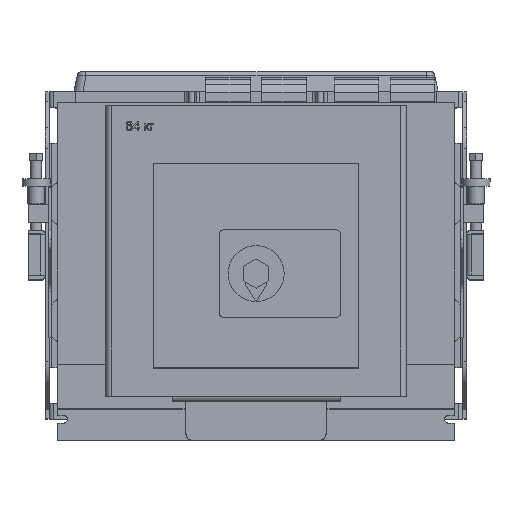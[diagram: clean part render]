
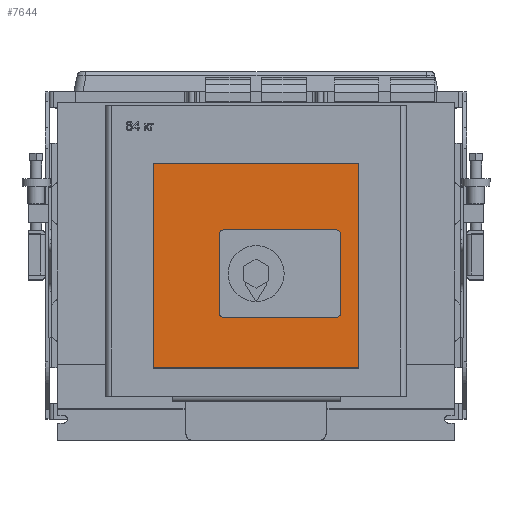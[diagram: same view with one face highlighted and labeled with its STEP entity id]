
A CAD part, top view. The second image highlights one B-rep face of the part: STEP entity #7644.
In plain terms, the highlighted planar face has unit normal (0, 0, 1).
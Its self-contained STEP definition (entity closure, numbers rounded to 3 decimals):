
#250 = DIRECTION ( 'NONE',  ( 0., 0., 1. ) ) ;
#361 = VERTEX_POINT ( 'NONE', #36371 ) ;
#791 = LINE ( 'NONE', #5211, #16412 ) ;
#1009 = CARTESIAN_POINT ( 'NONE',  ( 322.6, 296., 266.8 ) ) ;
#1375 = CARTESIAN_POINT ( 'NONE',  ( 102.6, 296., 266.8 ) ) ;
#1726 = DIRECTION ( 'NONE',  ( 1., 0., 0. ) ) ;
#1778 = LINE ( 'NONE', #2981, #33103 ) ;
#2579 = VECTOR ( 'NONE', #39206, 1000. ) ;
#2981 = CARTESIAN_POINT ( 'NONE',  ( 322.6, 77., 266.8 ) ) ;
#3159 = EDGE_CURVE ( 'NONE', #22365, #361, #17236, .T. ) ;
#3619 = VERTEX_POINT ( 'NONE', #29178 ) ;
#4380 = CARTESIAN_POINT ( 'NONE',  ( 178.1, 220., 266.8 ) ) ;
#4483 = VERTEX_POINT ( 'NONE', #8844 ) ;
#5211 = CARTESIAN_POINT ( 'NONE',  ( 322.6, 77., 266.8 ) ) ;
#5726 = CARTESIAN_POINT ( 'NONE',  ( 298.1, 136., 266.8 ) ) ;
#5728 = VECTOR ( 'NONE', #13288, 1000. ) ;
#7062 = CIRCLE ( 'NONE', #18685, 5. ) ;
#7145 = ORIENTED_EDGE ( 'NONE', *, *, #38188, .F. ) ;
#7496 = DIRECTION ( 'NONE',  ( 1., 0., 0. ) ) ;
#7518 = VERTEX_POINT ( 'NONE', #14748 ) ;
#7576 = EDGE_CURVE ( 'NONE', #17044, #19253, #17680, .T. ) ;
#7644 = ADVANCED_FACE ( 'NONE', ( #31383, #22093 ), #31185, .T. ) ;
#7760 = ORIENTED_EDGE ( 'NONE', *, *, #15859, .F. ) ;
#8162 = DIRECTION ( 'NONE',  ( 0., -1., 0. ) ) ;
#8224 = DIRECTION ( 'NONE',  ( -1., 0., 0. ) ) ;
#8333 = DIRECTION ( 'NONE',  ( 0., 1., 0. ) ) ;
#8430 = CARTESIAN_POINT ( 'NONE',  ( 102.6, 77., 266.8 ) ) ;
#8836 = DIRECTION ( 'NONE',  ( 1., 0., 0. ) ) ;
#8844 = CARTESIAN_POINT ( 'NONE',  ( 173.1, 136., 266.8 ) ) ;
#9234 = EDGE_CURVE ( 'NONE', #39846, #4483, #19497, .T. ) ;
#9238 = VECTOR ( 'NONE', #8224, 1000. ) ;
#9283 = VERTEX_POINT ( 'NONE', #8430 ) ;
#9342 = VECTOR ( 'NONE', #20872, 1000. ) ;
#10113 = CARTESIAN_POINT ( 'NONE',  ( 178.1, 131., 266.8 ) ) ;
#10494 = EDGE_CURVE ( 'NONE', #9283, #3619, #1778, .T. ) ;
#11647 = ORIENTED_EDGE ( 'NONE', *, *, #37809, .T. ) ;
#11951 = DIRECTION ( 'NONE',  ( 0., -1., 0. ) ) ;
#12234 = DIRECTION ( 'NONE',  ( 1., 0., 0. ) ) ;
#13288 = DIRECTION ( 'NONE',  ( 1., 0., 0. ) ) ;
#13496 = ORIENTED_EDGE ( 'NONE', *, *, #30965, .T. ) ;
#14748 = CARTESIAN_POINT ( 'NONE',  ( 303.1, 220., 266.8 ) ) ;
#14836 = ORIENTED_EDGE ( 'NONE', *, *, #27934, .F. ) ;
#15409 = CARTESIAN_POINT ( 'NONE',  ( 298.1, 131., 266.8 ) ) ;
#15859 = EDGE_CURVE ( 'NONE', #4483, #22575, #7062, .T. ) ;
#16142 = EDGE_CURVE ( 'NONE', #7518, #22365, #27681, .T. ) ;
#16412 = VECTOR ( 'NONE', #8333, 1000. ) ;
#16734 = LINE ( 'NONE', #27047, #9342 ) ;
#16919 = ORIENTED_EDGE ( 'NONE', *, *, #10494, .T. ) ;
#17044 = VERTEX_POINT ( 'NONE', #15409 ) ;
#17236 = LINE ( 'NONE', #34704, #2579 ) ;
#17680 = CIRCLE ( 'NONE', #20310, 5. ) ;
#18577 = ORIENTED_EDGE ( 'NONE', *, *, #19805, .T. ) ;
#18590 = LINE ( 'NONE', #23868, #9238 ) ;
#18685 = AXIS2_PLACEMENT_3D ( 'NONE', #18943, #250, #22114 ) ;
#18729 = DIRECTION ( 'NONE',  ( 1., 0., 0. ) ) ;
#18943 = CARTESIAN_POINT ( 'NONE',  ( 178.1, 136., 266.8 ) ) ;
#19253 = VERTEX_POINT ( 'NONE', #33498 ) ;
#19497 = LINE ( 'NONE', #29982, #26850 ) ;
#19805 = EDGE_CURVE ( 'NONE', #3619, #23034, #791, .T. ) ;
#20310 = AXIS2_PLACEMENT_3D ( 'NONE', #5726, #27674, #8836 ) ;
#20435 = DIRECTION ( 'NONE',  ( 0., 0., 1. ) ) ;
#20872 = DIRECTION ( 'NONE',  ( 0., 1., 0. ) ) ;
#21733 = EDGE_CURVE ( 'NONE', #19253, #7518, #16734, .T. ) ;
#22093 = FACE_OUTER_BOUND ( 'NONE', #32676, .T. ) ;
#22114 = DIRECTION ( 'NONE',  ( 1., 0., 0. ) ) ;
#22365 = VERTEX_POINT ( 'NONE', #30405 ) ;
#22575 = VERTEX_POINT ( 'NONE', #28368 ) ;
#23034 = VERTEX_POINT ( 'NONE', #1009 ) ;
#23868 = CARTESIAN_POINT ( 'NONE',  ( 322.6, 296., 266.8 ) ) ;
#24841 = VECTOR ( 'NONE', #11951, 1000. ) ;
#25339 = VERTEX_POINT ( 'NONE', #1375 ) ;
#26303 = DIRECTION ( 'NONE',  ( 0., 0., 1. ) ) ;
#26850 = VECTOR ( 'NONE', #8162, 1000. ) ;
#26907 = CIRCLE ( 'NONE', #29796, 5. ) ;
#27047 = CARTESIAN_POINT ( 'NONE',  ( 303.1, 136., 266.8 ) ) ;
#27674 = DIRECTION ( 'NONE',  ( 0., 0., 1. ) ) ;
#27681 = CIRCLE ( 'NONE', #28449, 5. ) ;
#27934 = EDGE_CURVE ( 'NONE', #22575, #17044, #28794, .T. ) ;
#27959 = CARTESIAN_POINT ( 'NONE',  ( 173.1, 220., 266.8 ) ) ;
#28368 = CARTESIAN_POINT ( 'NONE',  ( 178.1, 131., 266.8 ) ) ;
#28449 = AXIS2_PLACEMENT_3D ( 'NONE', #39152, #20435, #1726 ) ;
#28775 = LINE ( 'NONE', #33513, #24841 ) ;
#28794 = LINE ( 'NONE', #10113, #5728 ) ;
#29106 = ORIENTED_EDGE ( 'NONE', *, *, #16142, .F. ) ;
#29178 = CARTESIAN_POINT ( 'NONE',  ( 322.6, 77., 266.8 ) ) ;
#29796 = AXIS2_PLACEMENT_3D ( 'NONE', #4380, #26303, #7496 ) ;
#29982 = CARTESIAN_POINT ( 'NONE',  ( 173.1, 220., 266.8 ) ) ;
#30405 = CARTESIAN_POINT ( 'NONE',  ( 298.1, 225., 266.8 ) ) ;
#30965 = EDGE_CURVE ( 'NONE', #25339, #9283, #28775, .T. ) ;
#31185 = PLANE ( 'NONE',  #37069 ) ;
#31383 = FACE_BOUND ( 'NONE', #40317, .T. ) ;
#32676 = EDGE_LOOP ( 'NONE', ( #18577, #11647, #13496, #16919 ) ) ;
#33103 = VECTOR ( 'NONE', #12234, 1000. ) ;
#33498 = CARTESIAN_POINT ( 'NONE',  ( 303.1, 136., 266.8 ) ) ;
#33513 = CARTESIAN_POINT ( 'NONE',  ( 102.6, 77., 266.8 ) ) ;
#33697 = ORIENTED_EDGE ( 'NONE', *, *, #9234, .F. ) ;
#34704 = CARTESIAN_POINT ( 'NONE',  ( 298.1, 225., 266.8 ) ) ;
#36371 = CARTESIAN_POINT ( 'NONE',  ( 178.1, 225., 266.8 ) ) ;
#37069 = AXIS2_PLACEMENT_3D ( 'NONE', #37325, #37464, #18729 ) ;
#37191 = ORIENTED_EDGE ( 'NONE', *, *, #3159, .F. ) ;
#37325 = CARTESIAN_POINT ( 'NONE',  ( 0., 0., 266.8 ) ) ;
#37464 = DIRECTION ( 'NONE',  ( 0., 0., 1. ) ) ;
#37809 = EDGE_CURVE ( 'NONE', #23034, #25339, #18590, .T. ) ;
#37840 = ORIENTED_EDGE ( 'NONE', *, *, #21733, .F. ) ;
#38188 = EDGE_CURVE ( 'NONE', #361, #39846, #26907, .T. ) ;
#38689 = ORIENTED_EDGE ( 'NONE', *, *, #7576, .F. ) ;
#39152 = CARTESIAN_POINT ( 'NONE',  ( 298.1, 220., 266.8 ) ) ;
#39206 = DIRECTION ( 'NONE',  ( -1., 0., 0. ) ) ;
#39846 = VERTEX_POINT ( 'NONE', #27959 ) ;
#40317 = EDGE_LOOP ( 'NONE', ( #29106, #37840, #38689, #14836, #7760, #33697, #7145, #37191 ) ) ;
